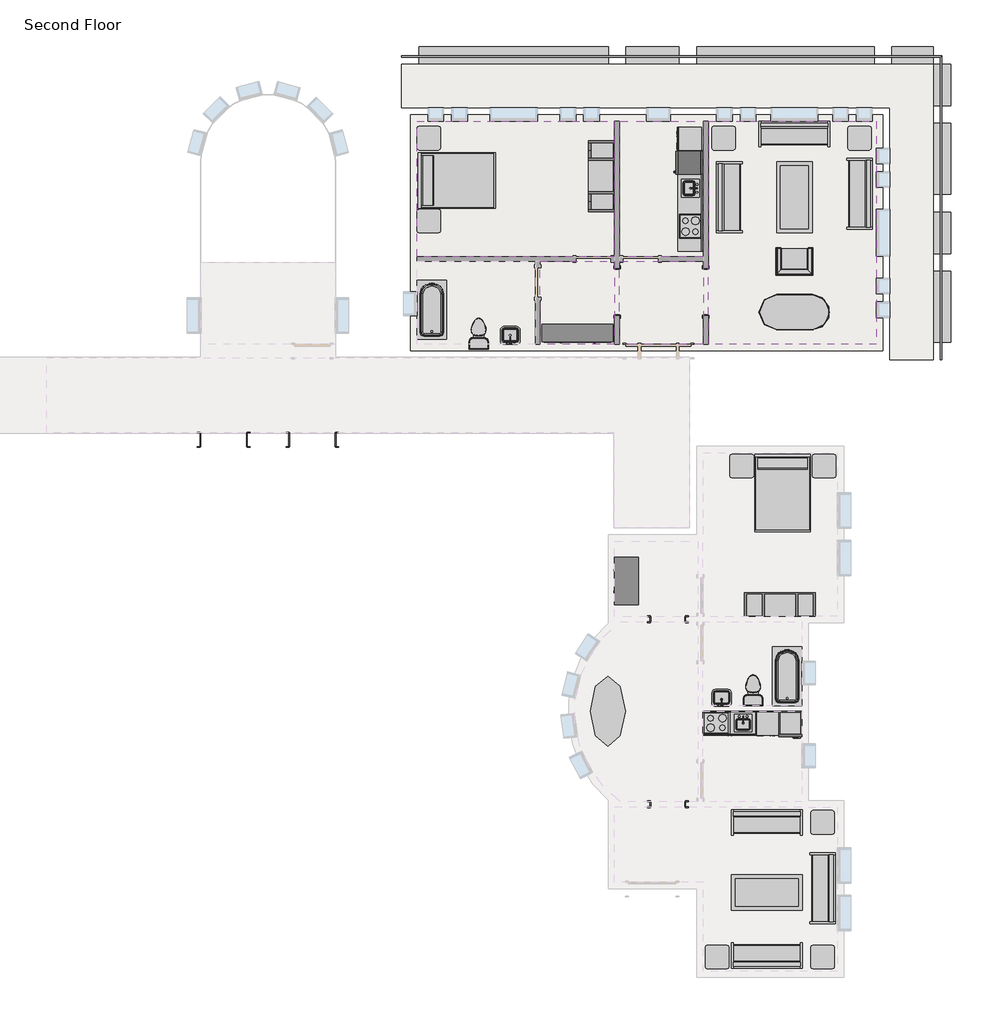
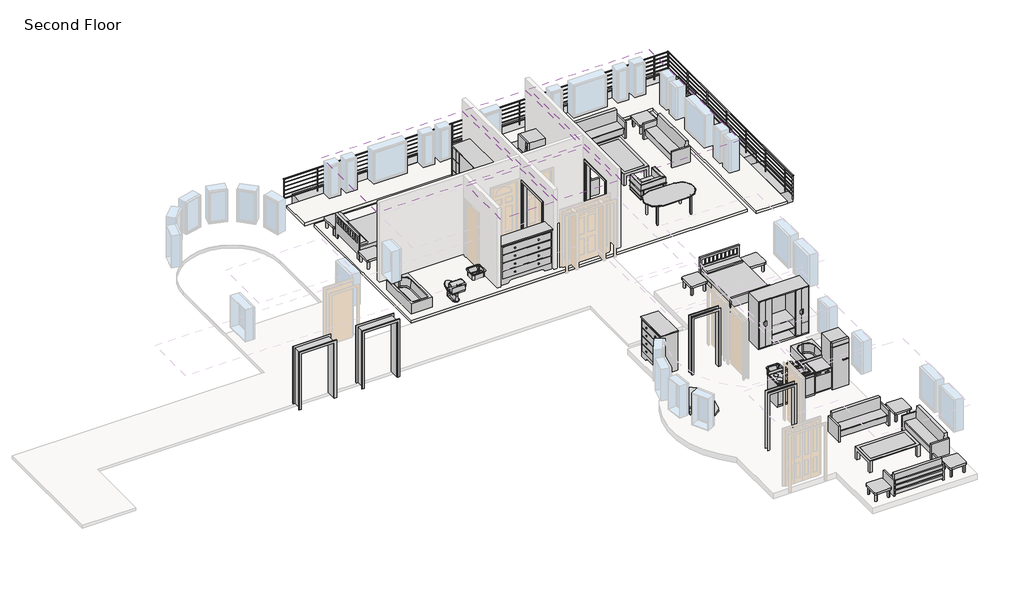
# One storey, part 2 of 2: 28 furniture elements, 14 proxies, 8 flow terminals, 5 coverings, 2 beams, 2 slabs, 1 railing.
"""IFC4 building model written with IfcOpenShell, lengths in millimetres."""

from ifc_helpers import new_model, si_unit, frame, origin, place, context, project, spatial, polyline, outline, extrude, transform, mapped, element, save
from components import proxy_dfcd9396, proxy_3c49123c, proxy_7a545507, m_cook_top_4_unit2_0615_x_500mm_249f3515, m_dishwasher_610_x_610_x_875mm_54ecfc4c, m_kitchenette_medium_1372mm_e05c6bec, m_passage_opening_cased_0915_x_2134mm_b7ef4dee, m_refrigerator_600_x_660mm_a466bf94, proxy_f44482cc, proxy_c3589814, proxy_ec3341c2, m_sink_kitchen_island_450_x_450mm_f969cf2d, m_sink_vanity_square_500_x_440mm_1e229b74, m_toilet_domestic_3d_m_toilet_domestic_3d_5cb52bd4, m_toilet_domestic_3d_m_toilet_domestic_3d_183bbd19, m_tub_rectangular_3d_m_tub_rectangular_3d_3da3e62d, flow_terminal_41332a36, flow_terminal_62a433f7, toilet_domestic_3d_toilet_domestic_3d_f7549cf7, tub_rectangular_3d_tub_rectangular_3d_15036965, furniture_096e7f55, chair_corbu_chair_corbu_2764bdef, furniture_6db689a5, furniture_7c473f12, furniture_cf0b6580, m_counter_top_w_sink_hole_600mm_depth_08c4f679, m_dresser_1220_x_1525_x_0610mm_18e1f140, m_entertainment_center_1830_x_1830_x_0610mm_f77a9b93, m_sofa_1830mm_f9e8a66b, m_table_coffee_0915_x_1830_x_0457mm_134cd960, m_table_ellipse_1800_x_900mm_fd46d5a5, m_table_end_0610_x_0160mm_cb6ea12e, furniture_a4ffab56, furniture_cd93a443, furniture_2c34a4f9, furniture_3a588284, handrail_pipe_d176f250

model = new_model("IFC4")

# Units and contexts
model_context = context("Model", 3, world=origin())
ifc_project = project(units=[si_unit("LENGTHUNIT", "METRE", prefix="MILLI")], contexts=[model_context])

# Site, building, storey
site = spatial("IfcSite", under=ifc_project)
building = spatial("IfcBuilding", under=site)
storey = spatial("IfcBuildingStorey", under=building, Name="Second Floor", Elevation=3048.0)

# Beams
placement = place(None, origin())
element("IfcBeam", 1, ObjectType="Concrete-Rectangular Beam : 18 x 18", at=placement, inside=storey, context=model_context, shape_type="SweptSolid", body=[
    extrude(outline(polyline([(2093.9410437, 12198.8316867), (2093.9410437, 11741.6316867), (1027.1410437, 11741.6316867), (1027.1410437, 12198.8316867), (2093.9410437, 12198.8316867)])), frame((0.0, 0.0, 2590.8), z_axis=(0.0, 0.0, 1.0), x_axis=(1.0, 0.0, 0.0)), (0.0, 0.0, 1.0), 457.2),
    extrude(outline(polyline([(-11164.8589563, 11741.6316867), (-11164.8589563, 12198.8316867), (-6288.0589563, 12198.8316867), (-6288.0589563, 11741.6316867), (-11164.8589563, 11741.6316867)])), frame((0.0, 0.0, 2590.8), z_axis=(0.0, 0.0, 1.0), x_axis=(1.0, 0.0, 0.0)), (0.0, 0.0, 1.0), 457.2),
    extrude(outline(polyline([(569.9410437, 12198.8316867), (569.9410437, 11741.6316867), (-4002.0589563, 11741.6316867), (-4002.0589563, 12198.8316867), (569.9410437, 12198.8316867)])), frame((0.0, 0.0, 2590.8), z_axis=(0.0, 0.0, 1.0), x_axis=(1.0, 0.0, 0.0)), (0.0, 0.0, 1.0), 457.2),
    extrude(outline(polyline([(-4459.2589563, 12198.8316867), (-4459.2589563, 11741.6316867), (-5830.8589563, 11741.6316867), (-5830.8589563, 12198.8316867), (-4459.2589563, 12198.8316867)])), frame((0.0, 0.0, 2590.8), z_axis=(0.0, 0.0, 1.0), x_axis=(1.0, 0.0, 0.0)), (0.0, 0.0, 1.0), 457.2),
])
element("IfcBeam", 2, ObjectType="Concrete-Rectangular Beam : 18 x 18", at=placement, inside=storey, context=model_context, shape_type="SweptSolid", body=[
    extrude(outline(polyline([(2093.9410437, 11741.6316867), (2551.1410437, 11741.6316867), (2551.1410437, 10674.8316867), (2093.9410437, 10674.8316867), (2093.9410437, 11741.6316867)])), frame((0.0, 0.0, 2590.8), z_axis=(0.0, 0.0, 1.0), x_axis=(1.0, 0.0, 0.0)), (0.0, 0.0, 1.0), 457.2),
    extrude(outline(polyline([(2551.1410437, 4578.8316867), (2093.9410437, 4578.8316867), (2093.9410437, 6407.6316867), (2551.1410437, 6407.6316867), (2551.1410437, 4578.8316867)])), frame((0.0, 0.0, 2590.8), z_axis=(0.0, 0.0, 1.0), x_axis=(1.0, 0.0, 0.0)), (0.0, 0.0, 1.0), 457.2),
    extrude(outline(polyline([(2093.9410437, 10217.6316867), (2551.1410437, 10217.6316867), (2551.1410437, 8388.8316867), (2093.9410437, 8388.8316867), (2093.9410437, 10217.6316867)])), frame((0.0, 0.0, 2590.8), z_axis=(0.0, 0.0, 1.0), x_axis=(1.0, 0.0, 0.0)), (0.0, 0.0, 1.0), 457.2),
    extrude(outline(polyline([(2093.9410437, 7931.6316867), (2551.1410437, 7931.6316867), (2551.1410437, 6864.8316867), (2093.9410437, 6864.8316867), (2093.9410437, 7931.6316867)])), frame((0.0, 0.0, 2590.8), z_axis=(0.0, 0.0, 1.0), x_axis=(1.0, 0.0, 0.0)), (0.0, 0.0, 1.0), 457.2),
])

# Proxies
proxy_shape = proxy_dfcd9396(model_context)
element("IfcBuildingElementProxy", 3, Name="Cook Top-4 Unit2 : 22\" x 20\"", ObjectType="Cook Top-4 Unit2 : 22\" x 20\"", at=placement, inside=storey, context=model_context, shape_type="MappedRepresentation", body=[
    mapped(proxy_shape, transform((-4167.1589563, 7568.5224391, 3048.0), x_axis=(0.0, 1.0000000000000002, 0.0), y_axis=(-1.0000000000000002, 0.0, 0.0), z_axis=(0.0, 0.0, 1.0))),
])
proxy_2_shape = proxy_3c49123c(model_context)
element("IfcBuildingElementProxy", 4, Name="Dishwasher : 24\" x 24\" x 34\"", ObjectType="Dishwasher : 24\" x 24\" x 34\"", at=placement, inside=storey, context=model_context, shape_type="MappedRepresentation", body=[
    mapped(proxy_2_shape, transform((-4459.0085211, 9434.1049706, 3048.0), x_axis=(0.0, 1.0000000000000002, 0.0), y_axis=(-1.0000000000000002, 0.0, 0.0), z_axis=(0.0, 0.0, 1.0))),
])
proxy_3_shape = proxy_7a545507(model_context)
element("IfcBuildingElementProxy", 5, Name="Kitchenette - Medium : 8'6\"", ObjectType="Kitchenette - Medium : 8'6\"", at=placement, inside=storey, context=model_context, shape_type="MappedRepresentation", body=[
    mapped(proxy_3_shape, transform((-3862.3589563, 8197.4847342, 3048.0), x_axis=(0.0, 1.0000000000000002, 0.0), y_axis=(-1.0000000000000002, 0.0, 0.0), z_axis=(0.0, 0.0, 1.0))),
])
m_cook_top_4_unit2_0615_x_500mm_shape = m_cook_top_4_unit2_0615_x_500mm_249f3515(model_context)
element("IfcBuildingElementProxy", 6, Name="M_Cook Top-4 Unit2 : 0615 x 500mm", ObjectType="M_Cook Top-4 Unit2 : 0615 x 500mm", at=placement, inside=storey, context=model_context, shape_type="MappedRepresentation", body=[
    mapped(m_cook_top_4_unit2_0615_x_500mm_shape, transform((-3495.1714563, -5234.2683133, 3048.0), x_axis=(1.0, 0.0, 0.0), y_axis=(0.0, 1.0, 0.0), z_axis=(0.0, 0.0, 1.0))),
])
m_dishwasher_610_x_610_x_875mm_shape = m_dishwasher_610_x_610_x_875mm_54ecfc4c(model_context)
element("IfcBuildingElementProxy", 7, Name="M_Dishwasher : 610 x 610 x 875mm", ObjectType="M_Dishwasher : 610 x 610 x 875mm", at=placement, inside=storey, context=model_context, shape_type="MappedRepresentation", body=[
    mapped(m_dishwasher_610_x_610_x_875mm_shape, transform((-2579.6889248, -5500.9178781, 3048.0), x_axis=(1.0, 0.0, 0.0), y_axis=(0.0, 1.0, 0.0), z_axis=(0.0, 0.0, 1.0))),
])
m_kitchenette_medium_1372mm_shape = m_kitchenette_medium_1372mm_e05c6bec(model_context)
element("IfcBuildingElementProxy", 8, Name="M_Kitchenette - Medium : 1372mm", ObjectType="M_Kitchenette - Medium : 1372mm", at=placement, inside=storey, context=model_context, shape_type="MappedRepresentation", body=[
    mapped(m_kitchenette_medium_1372mm_shape, transform((-3170.9091612, -4929.2683133, 3048.0), x_axis=(1.0, 0.0, 0.0), y_axis=(0.0, 1.0, 0.0), z_axis=(0.0, 0.0, 1.0))),
])
m_passage_opening_cased_0915_x_2134mm_shape = m_passage_opening_cased_0915_x_2134mm_b7ef4dee(model_context)
element("IfcBuildingElementProxy", 9, Name="M_Passage Opening-Cased : 0915 x 2134mm", ObjectType="M_Passage Opening-Cased : 0915 x 2134mm", at=placement, inside=storey, context=model_context, shape_type="MappedRepresentation", body=[
    mapped(m_passage_opening_cased_0915_x_2134mm_shape, transform((-4759.560113, -7332.1683133, 3048.0), x_axis=(-1.0, 0.0, 0.0), y_axis=(0.0, -1.0, 0.0), z_axis=(0.0, 0.0, 1.0))),
])
element("IfcBuildingElementProxy", 10, Name="M_Passage Opening-Cased : 0915 x 2134mm", ObjectType="M_Passage Opening-Cased : 0915 x 2134mm", at=placement, inside=storey, context=model_context, shape_type="MappedRepresentation", body=[
    mapped(m_passage_opening_cased_0915_x_2134mm_shape, transform((-4759.560113, -2560.1683133, 3048.0), x_axis=(-1.0, 0.0, 0.0), y_axis=(0.0, -1.0, 0.0), z_axis=(0.0, 0.0, 1.0))),
])
m_refrigerator_600_x_660mm_shape = m_refrigerator_600_x_660mm_a466bf94(model_context)
element("IfcBuildingElementProxy", 11, Name="M_Refrigerator : 600 x 660mm", ObjectType="M_Refrigerator : 600 x 660mm", at=placement, inside=storey, context=model_context, shape_type="MappedRepresentation", body=[
    mapped(m_refrigerator_600_x_660mm_shape, transform((-1538.3703137, -5225.4834035, 3048.0), x_axis=(1.0, 0.0, 0.0), y_axis=(0.0, 1.0, 0.0), z_axis=(0.0, 0.0, 1.0))),
])
proxy_4_shape = proxy_f44482cc(model_context)
element("IfcBuildingElementProxy", 12, Name="Opening-Cased : 48\" x 84\"", ObjectType="Opening-Cased : 48\" x 84\"", at=placement, inside=storey, context=model_context, shape_type="MappedRepresentation", body=[
    mapped(proxy_4_shape, transform((-3773.4589563, 5882.4203434, 3048.0), x_axis=(0.0, 1.0, 0.0), y_axis=(-1.0, 0.0, 0.0), z_axis=(0.0, 0.0, 1.0))),
])
element("IfcBuildingElementProxy", 13, Name="Opening-Cased : 48\" x 84\"", ObjectType="Opening-Cased : 48\" x 84\"", at=placement, inside=storey, context=model_context, shape_type="MappedRepresentation", body=[
    mapped(proxy_4_shape, transform((-6059.4589563, 5866.04303, 3048.0), x_axis=(0.0, -1.0, 0.0), y_axis=(1.0, 0.0, 0.0), z_axis=(0.0, 0.0, 1.0))),
])
proxy_5_shape = proxy_c3589814(model_context)
element("IfcBuildingElementProxy", 14, Name="Opening-Cased : 48\" x 84\"", ObjectType="Opening-Cased : 48\" x 84\"", at=placement, inside=storey, context=model_context, shape_type="MappedRepresentation", body=[
    mapped(proxy_5_shape, transform((-16213.360113, 2064.2316867, 3048.0), x_axis=(-1.0, 0.0, 0.0), y_axis=(0.0, -1.0, 0.0), z_axis=(0.0, 0.0, 1.0))),
])
element("IfcBuildingElementProxy", 15, Name="Opening-Cased : 48\" x 84\"", ObjectType="Opening-Cased : 48\" x 84\"", at=placement, inside=storey, context=model_context, shape_type="MappedRepresentation", body=[
    mapped(proxy_5_shape, transform((-13927.360113, 2064.2316867, 3048.0), x_axis=(-1.0, 0.0, 0.0), y_axis=(0.0, -1.0, 0.0), z_axis=(0.0, 0.0, 1.0))),
])
proxy_6_shape = proxy_ec3341c2(model_context)
element("IfcBuildingElementProxy", 16, Name="Refrigerator : 24\" x 25\" LH", ObjectType="Refrigerator : 24\" x 25\" LH", at=placement, inside=storey, context=model_context, shape_type="MappedRepresentation", body=[
    mapped(proxy_6_shape, transform((-4212.8079278, 9200.4724391, 3048.0), x_axis=(0.0, 1.0000000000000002, 0.0), y_axis=(-1.0000000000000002, 0.0, 0.0), z_axis=(0.0, 0.0, 1.0))),
])

# Coverings
element("IfcCovering", 17, ObjectType="GWB on Mtl. Stud", at=placement, inside=storey, context=model_context, shape_type="SweptSolid", body=[
    extrude(outline(polyline([(-11217.2464563, 10270.0191867), (-6122.9589563, 10270.0191867), (-6122.9589563, 6787.0441867), (-11217.2464563, 6787.0441867), (-11217.2464563, 10270.0191867)])), frame((0.0, 0.0, 5638.8), z_axis=(0.0, 0.0, 1.0), x_axis=(1.0, 0.0, 0.0)), (0.0, 0.0, 1.0), 107.95),
])
element("IfcCovering", 18, ObjectType="GWB on Mtl. Stud", at=placement, inside=storey, context=model_context, shape_type="SweptSolid", body=[
    extrude(outline(polyline([(-5995.9589563, 6787.0441867), (-5995.9589563, 10270.0191867), (-3836.9589563, 10270.0191867), (-3836.9589563, 6787.0441867), (-5995.9589563, 6787.0441867)])), frame((0.0, 0.0, 5638.8), z_axis=(0.0, 0.0, 1.0), x_axis=(1.0, 0.0, 0.0)), (0.0, 0.0, 1.0), 107.95),
])
element("IfcCovering", 19, ObjectType="GWB on Mtl. Stud", at=placement, inside=storey, context=model_context, shape_type="SweptSolid", body=[
    extrude(outline(polyline([(-3709.9589563, 4526.4441867), (-3709.9589563, 10270.0191867), (622.3285437, 10270.0191867), (622.3285437, 4526.4441867), (-3709.9589563, 4526.4441867)])), frame((0.0, 0.0, 5638.8), z_axis=(0.0, 0.0, 1.0), x_axis=(1.0, 0.0, 0.0)), (0.0, 0.0, 1.0), 107.95),
])
element("IfcCovering", 20, ObjectType="GWB on Mtl. Stud", at=placement, inside=storey, context=model_context, shape_type="SweptSolid", body=[
    extrude(outline(polyline([(-3836.9589563, 4526.4441867), (-5995.9589563, 4526.4441867), (-5995.9589563, 6660.0441867), (-3836.9589563, 6660.0441867), (-3836.9589563, 4526.4441867)])), frame((0.0, 0.0, 5638.8), z_axis=(0.0, 0.0, 1.0), x_axis=(1.0, 0.0, 0.0)), (0.0, 0.0, 1.0), 107.95),
])
element("IfcCovering", 21, ObjectType="GWB on Mtl. Stud", at=placement, inside=storey, context=model_context, shape_type="SweptSolid", body=[
    extrude(outline(polyline([(-6122.9589563, 4526.4441867), (-8042.2464563, 4526.4441867), (-8042.2464563, 6660.0441867), (-6122.9589563, 6660.0441867), (-6122.9589563, 4526.4441867)])), frame((0.0, 0.0, 5638.8), z_axis=(0.0, 0.0, 1.0), x_axis=(1.0, 0.0, 0.0)), (0.0, 0.0, 1.0), 107.95),
])

# Flow terminals
m_sink_kitchen_island_450_x_450mm_shape = m_sink_kitchen_island_450_x_450mm_f969cf2d(model_context)
element("IfcFlowTerminal", 22, ObjectType="M_Sink Kitchen-Island : 450 x 450mm", at=placement, inside=storey, context=model_context, shape_type="MappedRepresentation", body=[
    mapped(m_sink_kitchen_island_450_x_450mm_shape, transform((-2824.8606969, -5236.6137144, 3048.0), x_axis=(1.0, 0.0, 0.0), y_axis=(0.0, 1.0, 0.0), z_axis=(0.0, 0.0, 1.0))),
])
m_sink_vanity_square_500_x_440mm_shape = m_sink_vanity_square_500_x_440mm_1e229b74(model_context)
element("IfcFlowTerminal", 23, ObjectType="M_Sink Vanity-Square : 500 x 440mm", at=placement, inside=storey, context=model_context, shape_type="MappedRepresentation", body=[
    mapped(m_sink_vanity_square_500_x_440mm_shape, transform((-3349.2572157, -4621.7229122, 3048.0), x_axis=(-1.0, 0.0, 0.0), y_axis=(0.0, -1.0, 0.0), z_axis=(0.0, 0.0, 1.0))),
])
m_toilet_domestic_3d_m_toilet_domestic_3d_shape = m_toilet_domestic_3d_m_toilet_domestic_3d_5cb52bd4(model_context)
m_toilet_domestic_3d_m_toilet_domestic_3d_2_shape = m_toilet_domestic_3d_m_toilet_domestic_3d_183bbd19(model_context)
element("IfcFlowTerminal", 24, ObjectType="M_Toilet-Domestic-3D : M_Toilet-Domestic-3D", at=placement, inside=storey, context=model_context, shape_type="MappedRepresentation", body=[
    mapped(m_toilet_domestic_3d_m_toilet_domestic_3d_shape, transform((-2552.025429, -4299.072286, 3048.0), x_axis=(-1.0, 0.0, 0.0), y_axis=(0.0, -1.0, 0.0), z_axis=(0.0, 0.0, 1.0))),
    mapped(m_toilet_domestic_3d_m_toilet_domestic_3d_2_shape, transform((-2552.025429, -4299.072286, 3048.0), x_axis=(-1.0, 0.0, 0.0), y_axis=(0.0, -1.0, 0.0), z_axis=(0.0, 0.0, 1.0))),
])
m_tub_rectangular_3d_m_tub_rectangular_3d_shape = m_tub_rectangular_3d_m_tub_rectangular_3d_3da3e62d(model_context)
element("IfcFlowTerminal", 25, ObjectType="M_Tub-Rectangular-3D : M_Tub-Rectangular-3D", at=placement, inside=storey, context=model_context, shape_type="MappedRepresentation", body=[
    mapped(m_tub_rectangular_3d_m_tub_rectangular_3d_shape, transform((-1117.5714563, -3683.1653446, 3048.0), x_axis=(0.0, 1.0, 0.0), y_axis=(-1.0, 0.0, 0.0), z_axis=(0.0, 0.0, 1.0))),
])
flow_terminal_shape = flow_terminal_41332a36(model_context)
element("IfcFlowTerminal", 26, ObjectType="Sink Kitchen-Island : 18\" x 18\"", at=placement, inside=storey, context=model_context, shape_type="MappedRepresentation", body=[
    mapped(flow_terminal_shape, transform((-4169.5043574, 8530.7331986, 3033.6), x_axis=(0.0, 1.0000000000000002, 0.0), y_axis=(-1.0000000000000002, 0.0, 0.0), z_axis=(0.0, 0.0, 1.0))),
])
flow_terminal_2_shape = flow_terminal_62a433f7(model_context)
element("IfcFlowTerminal", 27, ObjectType="Sink Vanity-Square : 20\" x 18\"", at=placement, inside=storey, context=model_context, shape_type="MappedRepresentation", body=[
    mapped(flow_terminal_2_shape, transform((-8801.2572158, 4706.5895878, 3048.0), x_axis=(-1.0, 0.0, 0.0), y_axis=(0.0, -1.0, 0.0), z_axis=(0.0, 0.0, 1.0))),
])
toilet_domestic_3d_toilet_domestic_3d_shape = toilet_domestic_3d_toilet_domestic_3d_f7549cf7(model_context)
element("IfcFlowTerminal", 28, ObjectType="Toilet-Domestic-3D : Toilet-Domestic-3D", at=placement, inside=storey, context=model_context, shape_type="MappedRepresentation", body=[
    mapped(toilet_domestic_3d_toilet_domestic_3d_shape, transform((-9629.7464563, 4894.7441867, 3048.0), x_axis=(-1.0, 0.0, 0.0), y_axis=(0.0, -1.0, 0.0), z_axis=(0.0, 0.0, 1.0))),
    mapped(m_toilet_domestic_3d_m_toilet_domestic_3d_2_shape, transform((-9629.7464563, 4894.7441867, 3048.0), x_axis=(-1.0, 0.0, 0.0), y_axis=(0.0, -1.0, 0.0), z_axis=(0.0, 0.0, 1.0))),
])
tub_rectangular_3d_tub_rectangular_3d_shape = tub_rectangular_3d_tub_rectangular_3d_15036965(model_context)
element("IfcFlowTerminal", 29, ObjectType="Tub-Rectangular-3D : Tub-Rectangular-3D", at=placement, inside=storey, context=model_context, shape_type="MappedRepresentation", body=[
    mapped(tub_rectangular_3d_tub_rectangular_3d_shape, transform((-11393.4589563, 5765.6346554, 3048.0), x_axis=(0.0, 1.0, 0.0), y_axis=(-1.0, 0.0, 0.0), z_axis=(0.0, 0.0, 1.0))),
])

# Furniture
furniture_shape = furniture_096e7f55(model_context)
element("IfcFurniture", 30, ObjectType="Bed-Shaker : Double 56\" x 78\"", at=placement, inside=storey, context=model_context, shape_type="MappedRepresentation", body=[
    mapped(furniture_shape, transform((-11172.0857802, 8763.4816867, 3048.0), x_axis=(0.0, 1.0, 0.0), y_axis=(-1.0, 0.0, 0.0), z_axis=(0.0, 0.0, 1.0))),
])
chair_corbu_chair_corbu_shape = chair_corbu_chair_corbu_2764bdef(model_context)
element("IfcFurniture", 31, ObjectType="Chair-Corbu : Chair-Corbu", at=placement, inside=storey, context=model_context, shape_type="MappedRepresentation", body=[
    mapped(chair_corbu_chair_corbu_shape, transform((-914.0851858, 7126.8212359, 3048.0), x_axis=(-1.0, 0.0, 0.0), y_axis=(0.0, -1.0, 0.0), z_axis=(0.0, 0.0, 1.0))),
])
furniture_2_shape = furniture_6db689a5(model_context)
element("IfcFurniture", 32, ObjectType="Counter Top w Sink Hole : 24\" Depth", at=placement, inside=storey, context=model_context, shape_type="MappedRepresentation", body=[
    mapped(furniture_2_shape, transform((-3862.3589563, 8121.2847342, 3033.6), x_axis=(0.0, 1.0000000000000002, 0.0), y_axis=(-1.0000000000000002, 0.0, 0.0), z_axis=(0.0, 0.0, 1.0))),
])
furniture_3_shape = furniture_7c473f12(model_context)
element("IfcFurniture", 33, ObjectType="Dresser : 72\" x 60\" x 18\"", at=placement, inside=storey, context=model_context, shape_type="MappedRepresentation", body=[
    mapped(furniture_3_shape, transform((-6806.2656965, 5181.7071408, 3048.0), x_axis=(1.0, 0.0, 0.0), y_axis=(0.0, 1.0, 0.0), z_axis=(0.0, 0.0, 1.0))),
])
furniture_4_shape = furniture_cf0b6580(model_context)
element("IfcFurniture", 34, ObjectType="Entertainment Center : 72\" x 72\" x 24\"", at=placement, inside=storey, context=model_context, shape_type="MappedRepresentation", body=[
    mapped(furniture_4_shape, transform((-6021.3589563, 8857.1441867, 3048.0), x_axis=(0.0, -1.0, 0.0), y_axis=(1.0, 0.0, 0.0), z_axis=(0.0, 0.0, 1.0))),
])
element("IfcFurniture", 35, ObjectType="M_Bed-Shaker : 1422 x 1981mm - Double", at=placement, inside=storey, context=model_context, shape_type="MappedRepresentation", body=[
    mapped(furniture_shape, transform((-1770.3214563, 1676.8316867, 3048.0), x_axis=(1.0, 0.0, 0.0), y_axis=(0.0, 1.0, 0.0), z_axis=(0.0, 0.0, 1.0))),
])
m_counter_top_w_sink_hole_600mm_depth_shape = m_counter_top_w_sink_hole_600mm_depth_08c4f679(model_context)
element("IfcFurniture", 36, ObjectType="M_Counter Top w Sink Hole : 600mm Depth", at=placement, inside=storey, context=model_context, shape_type="MappedRepresentation", body=[
    mapped(m_counter_top_w_sink_hole_600mm_depth_shape, transform((-2637.7091612, -4929.2683133, 3048.0), x_axis=(1.0, 0.0, 0.0), y_axis=(0.0, 1.0, 0.0), z_axis=(0.0, 0.0, 1.0))),
])
m_dresser_1220_x_1525_x_0610mm_shape = m_dresser_1220_x_1525_x_0610mm_18e1f140(model_context)
element("IfcFurniture", 37, ObjectType="M_Dresser : 1220 x 1525 x 0610mm", at=placement, inside=storey, context=model_context, shape_type="MappedRepresentation", body=[
    mapped(m_dresser_1220_x_1525_x_0610mm_shape, transform((-5456.0085022, -1844.3615731, 3048.0), x_axis=(0.0, -1.0, 0.0), y_axis=(1.0, 0.0, 0.0), z_axis=(0.0, 0.0, 1.0))),
])
m_entertainment_center_1830_x_1830_x_0610mm_shape = m_entertainment_center_1830_x_1830_x_0610mm_f77a9b93(model_context)
element("IfcFurniture", 38, ObjectType="M_Entertainment center : 1830 x 1830 x 0610mm", at=placement, inside=storey, context=model_context, shape_type="MappedRepresentation", body=[
    mapped(m_entertainment_center_1830_x_1830_x_0610mm_shape, transform((-1857.5714563, -1773.7683133, 3048.0), x_axis=(1.0, 0.0, 0.0), y_axis=(0.0, 1.0, 0.0), z_axis=(0.0, 0.0, 1.0))),
])
m_sofa_1830mm_shape = m_sofa_1830mm_f9e8a66b(model_context)
element("IfcFurniture", 39, ObjectType="M_Sofa : 1830mm", at=placement, inside=storey, context=model_context, shape_type="MappedRepresentation", body=[
    mapped(m_sofa_1830mm_shape, transform((-909.3255547, -9428.7978215, 3048.0), x_axis=(0.0, -1.0, 0.0), y_axis=(1.0, 0.0, 0.0), z_axis=(0.0, 0.0, 1.0))),
])
element("IfcFurniture", 40, ObjectType="M_Sofa : 1830mm", at=placement, inside=storey, context=model_context, shape_type="MappedRepresentation", body=[
    mapped(m_sofa_1830mm_shape, transform((-2268.5419481, -7946.0724117, 3048.0), x_axis=(1.0, 0.0, 0.0), y_axis=(0.0, 1.0, 0.0), z_axis=(0.0, 0.0, 1.0))),
])
element("IfcFurniture", 41, ObjectType="M_Sofa : 1830mm", at=placement, inside=storey, context=model_context, shape_type="MappedRepresentation", body=[
    mapped(m_sofa_1830mm_shape, transform((-2127.8009645, -11083.014215, 3048.0), x_axis=(-1.0, 0.0, 0.0), y_axis=(0.0, -1.0, 0.0), z_axis=(0.0, 0.0, 1.0))),
])
m_table_coffee_0915_x_1830_x_0457mm_shape = m_table_coffee_0915_x_1830_x_0457mm_134cd960(model_context)
element("IfcFurniture", 42, ObjectType="M_Table-Coffee : 0915 x 1830 x 0457mm", at=placement, inside=storey, context=model_context, shape_type="MappedRepresentation", body=[
    mapped(m_table_coffee_0915_x_1830_x_0457mm_shape, transform((-2216.437223, -9695.1293911, 3048.0), x_axis=(1.0, 0.0, 0.0), y_axis=(0.0, 1.0, 0.0), z_axis=(0.0, 0.0, 1.0))),
])
m_table_ellipse_1800_x_900mm_shape = m_table_ellipse_1800_x_900mm_fd46d5a5(model_context)
element("IfcFurniture", 43, ObjectType="M_Table-Ellipse : 1800 x 900mm", at=placement, inside=storey, context=model_context, shape_type="MappedRepresentation", body=[
    mapped(m_table_ellipse_1800_x_900mm_shape, transform((-6299.1714563, -4929.2683133, 3048.0), x_axis=(0.0, -1.0, 0.0), y_axis=(1.0, 0.0, 0.0), z_axis=(0.0, 0.0, 1.0))),
])
m_table_end_0610_x_0160mm_shape = m_table_end_0610_x_0160mm_cb6ea12e(model_context)
element("IfcFurniture", 44, ObjectType="M_Table-End : 0610 x 0160mm", at=placement, inside=storey, context=model_context, shape_type="MappedRepresentation", body=[
    mapped(m_table_end_0610_x_0160mm_shape, transform((-875.5714563, 1701.315317, 3048.0), x_axis=(0.0, -1.0, 0.0), y_axis=(1.0, 0.0, 0.0), z_axis=(0.0, 0.0, 1.0))),
])
element("IfcFurniture", 45, ObjectType="M_Table-End : 0610 x 0160mm", at=placement, inside=storey, context=model_context, shape_type="MappedRepresentation", body=[
    mapped(m_table_end_0610_x_0160mm_shape, transform((-2995.5714563, 1701.315317, 3048.0), x_axis=(0.0, -1.0, 0.0), y_axis=(1.0, 0.0, 0.0), z_axis=(0.0, 0.0, 1.0))),
])
element("IfcFurniture", 46, ObjectType="M_Table-End : 0610 x 0160mm", at=placement, inside=storey, context=model_context, shape_type="MappedRepresentation", body=[
    mapped(m_table_end_0610_x_0160mm_shape, transform((-915.5714563, -7485.434683, 3048.0), x_axis=(0.0, -1.0, 0.0), y_axis=(1.0, 0.0, 0.0), z_axis=(0.0, 0.0, 1.0))),
])
element("IfcFurniture", 47, ObjectType="M_Table-End : 0610 x 0160mm", at=placement, inside=storey, context=model_context, shape_type="MappedRepresentation", body=[
    mapped(m_table_end_0610_x_0160mm_shape, transform((-915.5714563, -10955.434683, 3048.0), x_axis=(0.0, -1.0, 0.0), y_axis=(1.0, 0.0, 0.0), z_axis=(0.0, 0.0, 1.0))),
])
element("IfcFurniture", 48, ObjectType="M_Table-End : 0610 x 0160mm", at=placement, inside=storey, context=model_context, shape_type="MappedRepresentation", body=[
    mapped(m_table_end_0610_x_0160mm_shape, transform((-3635.5714563, -10955.434683, 3048.0), x_axis=(0.0, -1.0, 0.0), y_axis=(1.0, 0.0, 0.0), z_axis=(0.0, 0.0, 1.0))),
])
furniture_5_shape = furniture_a4ffab56(model_context)
element("IfcFurniture", 49, ObjectType="Sofa : 72\"", at=placement, inside=storey, context=model_context, shape_type="MappedRepresentation", body=[
    mapped(furniture_5_shape, transform((-3017.704858, 8242.2611949, 3048.0), x_axis=(0.0, 1.0, 0.0), y_axis=(-1.0, 0.0, 0.0), z_axis=(0.0, 0.0, 1.0))),
])
element("IfcFurniture", 50, ObjectType="Sofa : 72\"", at=placement, inside=storey, context=model_context, shape_type="MappedRepresentation", body=[
    mapped(furniture_5_shape, transform((-1557.8294481, 9801.5748071, 3048.0), x_axis=(1.0, 0.0, 0.0), y_axis=(0.0, 1.0, 0.0), z_axis=(0.0, 0.0, 1.0))),
])
element("IfcFurniture", 51, ObjectType="Sofa : 72\"", at=placement, inside=storey, context=model_context, shape_type="MappedRepresentation", body=[
    mapped(furniture_5_shape, transform((42.7869453, 8470.3146785, 3048.0), x_axis=(0.0, -1.0, 0.0), y_axis=(1.0, 0.0, 0.0), z_axis=(0.0, 0.0, 1.0))),
])
furniture_6_shape = furniture_cd93a443(model_context)
element("IfcFurniture", 52, ObjectType="Table-Coffee : 36\" x 72\" x 18\"", at=placement, inside=storey, context=model_context, shape_type="MappedRepresentation", body=[
    mapped(furniture_6_shape, transform((-1392.2478785, 8294.36592, 3048.0), x_axis=(0.0, 1.0, 0.0), y_axis=(-1.0, 0.0, 0.0), z_axis=(0.0, 0.0, 1.0))),
])
furniture_7_shape = furniture_2c34a4f9(model_context)
element("IfcFurniture", 53, ObjectType="Table-Dining Oval : 36\" x 72\"", at=placement, inside=storey, context=model_context, shape_type="MappedRepresentation", body=[
    mapped(furniture_7_shape, transform((-1085.6392842, 5710.0425473, 3048.0), x_axis=(1.0, 0.0, 0.0), y_axis=(0.0, 1.0, 0.0), z_axis=(0.0, 0.0, 1.0))),
])
furniture_8_shape = furniture_3a588284(model_context)
element("IfcFurniture", 54, ObjectType="Table-End : 24\" x 24\"", at=placement, inside=storey, context=model_context, shape_type="MappedRepresentation", body=[
    mapped(furniture_8_shape, transform((-119.5925866, 9684.2316867, 3048.0), x_axis=(1.0, 0.0, 0.0), y_axis=(0.0, 1.0, 0.0), z_axis=(0.0, 0.0, 1.0))),
])
element("IfcFurniture", 55, ObjectType="Table-End : 24\" x 24\"", at=placement, inside=storey, context=model_context, shape_type="MappedRepresentation", body=[
    mapped(furniture_8_shape, transform((-11220.9800866, 7550.6316867, 3048.0), x_axis=(1.0, 0.0, 0.0), y_axis=(0.0, 1.0, 0.0), z_axis=(0.0, 0.0, 1.0))),
])
element("IfcFurniture", 56, ObjectType="Table-End : 24\" x 24\"", at=placement, inside=storey, context=model_context, shape_type="MappedRepresentation", body=[
    mapped(furniture_8_shape, transform((-11220.9800866, 9684.2316867, 3048.0), x_axis=(1.0, 0.0, 0.0), y_axis=(0.0, 1.0, 0.0), z_axis=(0.0, 0.0, 1.0))),
])
element("IfcFurniture", 57, ObjectType="Table-End : 24\" x 24\"", at=placement, inside=storey, context=model_context, shape_type="MappedRepresentation", body=[
    mapped(furniture_8_shape, transform((-3624.7925866, 9684.2316867, 3048.0), x_axis=(1.0, 0.0, 0.0), y_axis=(0.0, 1.0, 0.0), z_axis=(0.0, 0.0, 1.0))),
])

# Railing
handrail_pipe_shape = handrail_pipe_d176f250(model_context)
element("IfcRailing", 58, ObjectType="Handrail - Pipe", at=placement, inside=storey, context=model_context, shape_type="MappedRepresentation", body=[
    mapped(handrail_pipe_shape, transform((0.0, 0.0, 0.0), x_axis=(1.0, 0.0, 0.0), y_axis=(0.0, 1.0, 0.0), z_axis=(0.0, 0.0, 1.0))),
])

# Slabs
element("IfcSlab", 59, ObjectType="LW Concrete on Metal Deck", at=placement, inside=storey, context=model_context, shape_type="SweptSolid", body=[
    extrude(outline(polyline([(787.4285437, 10435.1191867), (787.4285437, 4361.3441867), (-11382.3464563, 4361.3441867), (-11382.3464563, 10435.1191867), (787.4285437, 10435.1191867)])), frame((0.0, 0.0, 2943.225), z_axis=(0.0, 0.0, 1.0), x_axis=(1.0, 0.0, 0.0)), (0.0, 0.0, 1.0), 104.775),
])
element("IfcSlab", 60, ObjectType="LW Concrete on Metal Deck", at=placement, inside=storey, context=model_context, shape_type="SweptSolid", body=[
    extrude(outline(polyline([(-11622.0589563, 10622.4441867), (-11622.0589563, 11741.6316867), (2093.9410437, 11741.6316867), (2093.9410437, 4121.6316867), (974.7535437, 4121.6316867), (974.7535437, 10622.4441867), (-11622.0589563, 10622.4441867)])), frame((0.0, 0.0, 2943.225), z_axis=(0.0, 0.0, 1.0), x_axis=(1.0, 0.0, 0.0)), (0.0, 0.0, 1.0), 104.775),
])

save(model, "model.ifc")
